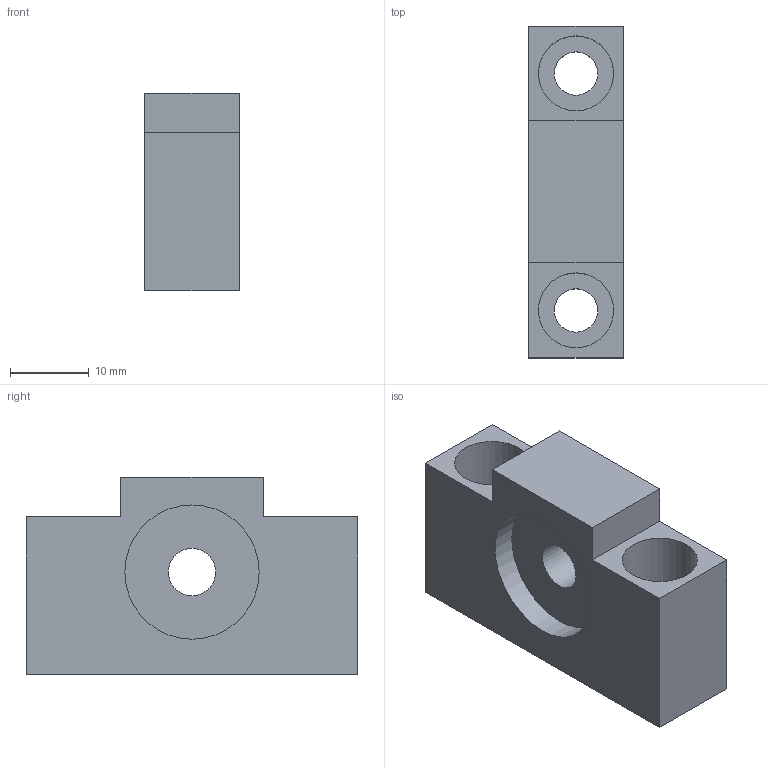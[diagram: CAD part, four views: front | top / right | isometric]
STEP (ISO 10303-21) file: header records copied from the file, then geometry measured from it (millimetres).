
FILE_DESCRIPTION(/* description */ (''),/* implementation_level */ '2;1');
FILE_NAME(/* name */ 'EF6-STP.stp',/* time_stamp */ '2019-11-15T15:36:49+08:00',/* author */ (''),/* organization */ (''),/* preprocessor_version */ 'ST-DEVELOPER v14',/* originating_system */ 'SIEMENS PLM Software NX 8.0',/* authorisation */ '');
FILE_SCHEMA (('AUTOMOTIVE_DESIGN { 1 0 10303 214 3 1 1 1 }'));
Length unit declared in the file: millimetre
Products named in the file (3): 706; EF6-A; EF6
Assembly tree (2 placements, depth 2):
  EF6
    EF6-A
    706
Bounding box: 12 x 42 x 25 mm (x, y, z)
Volume: 7641.4 mm3; surface area: 5358.5 mm2
Topology: 2 solids, 2 shells, 21 faces, 45 edges, 30 vertices
Faces by surface type: plane 14, cylinder 7
Full cylindrical faces by diameter (mm): 5.5 x2, 6 x1, 9.5 x2, 17 x2
Entity records: 622 total; most frequent: DIRECTION 100, CARTESIAN_POINT 92, ORIENTED_EDGE 76, EDGE_LOOP 38, EDGE_CURVE 38, AXIS2_PLACEMENT_3D 38, FACE_BOUND 33, VERTEX_POINT 30
